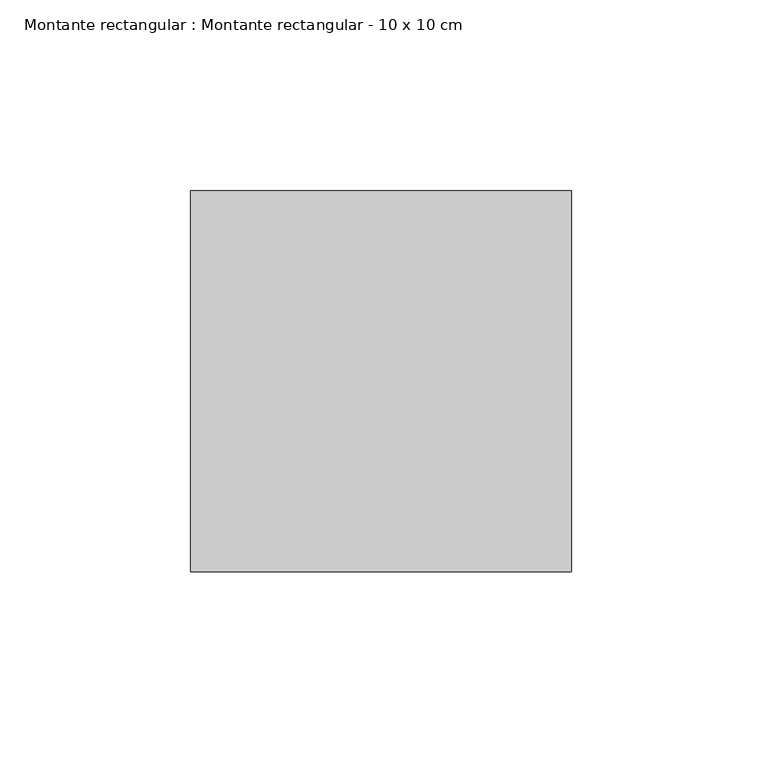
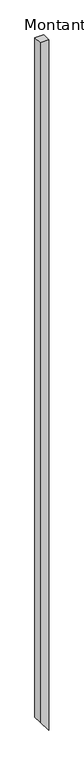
"""IFC4 building model written with IfcOpenShell, lengths in millimetres: member geometry, Montante rectangular : Montante rectangular - 10 x 10 cm."""

from ifc_helpers import new_model, si_unit, frame, origin, place, context, project, spatial, polyline, outline, extrude, source, transform, mapped, element, save


def montante_rectangular_montante_rectangular_10_x_10_cm_15e1f963(model_context):
    return source(origin(), model_context, "Body", "SweptSolid", [
        extrude(outline(polyline([(0.0, 0.0), (0.0, -100.0), (-8142.9922651, -100.0), (-8274.5629112, 0.0), (0.0, 0.0)])), frame((0.0, -50.0, 0.0), z_axis=(0.0, 1.0, 0.0), x_axis=(0.0, 0.0, 1.0)), (0.0, 0.0, 1.0), 100.0),
    ])


if __name__ == "__main__":
    model = new_model("IFC4")
    model_context = context("Model", 3, world=origin())
    ifc_project = project(units=[si_unit("LENGTHUNIT", "METRE", prefix="MILLI")], contexts=[model_context])
    site = spatial("IfcSite", under=ifc_project)
    building = spatial("IfcBuilding", under=site)
    placement = place(None, origin())
    montante_rectangular_montante_rectangular_10_x_10_cm_shape = montante_rectangular_montante_rectangular_10_x_10_cm_15e1f963(model_context)
    element("IfcMember", 1, ObjectType="Montante rectangular : Montante rectangular - 10 x 10 cm", at=placement, inside=building, context=model_context, shape_type="MappedRepresentation", body=[
        mapped(montante_rectangular_montante_rectangular_10_x_10_cm_shape, transform((0.0, 0.0, 0.0), x_axis=(1.0, 0.0, 0.0), y_axis=(0.0, 1.0, 0.0), z_axis=(0.0, 0.0, 1.0))),
    ])
    save(model, "model.ifc")
